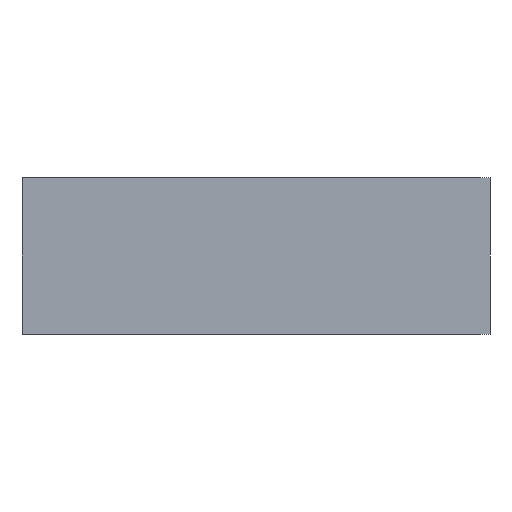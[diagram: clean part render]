
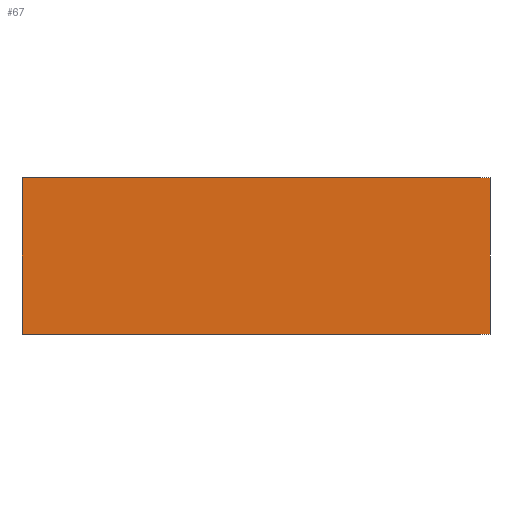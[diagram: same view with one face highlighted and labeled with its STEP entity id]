
A CAD part, front view. The second image highlights one B-rep face of the part: STEP entity #67.
In plain terms, the highlighted planar face has unit normal (0, -1, 0).
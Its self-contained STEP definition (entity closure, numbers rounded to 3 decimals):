
#42 = DIRECTION ( 'NONE',  ( 0., 0., -1. ) ) ;
#43 = CARTESIAN_POINT ( 'NONE',  ( -179., 0., 120. ) ) ;
#50 = DIRECTION ( 'NONE',  ( 1., 0., 0. ) ) ;
#51 = CARTESIAN_POINT ( 'NONE',  ( -179., 0., 0. ) ) ;
#52 = DIRECTION ( 'NONE',  ( 0., 0., -1. ) ) ;
#54 = CARTESIAN_POINT ( 'NONE',  ( 179., 0., 120. ) ) ;
#60 = VECTOR ( 'NONE', #79, 1000. ) ;
#67 = ADVANCED_FACE ( 'NONE', ( #308 ), #155, .F. ) ;
#79 = DIRECTION ( 'NONE',  ( 1., 0., 0. ) ) ;
#80 = CARTESIAN_POINT ( 'NONE',  ( -179., 0., 120. ) ) ;
#100 = CARTESIAN_POINT ( 'NONE',  ( -179., 0., 0. ) ) ;
#102 = VERTEX_POINT ( 'NONE', #110 ) ;
#103 = CARTESIAN_POINT ( 'NONE',  ( 179., 0., 0. ) ) ;
#107 = CARTESIAN_POINT ( 'NONE',  ( -179., 0., 120. ) ) ;
#110 = CARTESIAN_POINT ( 'NONE',  ( 179., 0., 120. ) ) ;
#116 = VERTEX_POINT ( 'NONE', #107 ) ;
#121 = VERTEX_POINT ( 'NONE', #103 ) ;
#123 = VERTEX_POINT ( 'NONE', #100 ) ;
#145 = DIRECTION ( 'NONE',  ( -1., 0., 0. ) ) ;
#146 = DIRECTION ( 'NONE',  ( 0., 1., 0. ) ) ;
#152 = CARTESIAN_POINT ( 'NONE',  ( -179., 0., 120. ) ) ;
#155 = PLANE ( 'NONE',  #244 ) ;
#170 = VECTOR ( 'NONE', #52, 1000. ) ;
#171 = LINE ( 'NONE', #51, #172 ) ;
#172 = VECTOR ( 'NONE', #50, 1000. ) ;
#175 = LINE ( 'NONE', #43, #176 ) ;
#176 = VECTOR ( 'NONE', #42, 1000. ) ;
#210 = ORIENTED_EDGE ( 'NONE', *, *, #269, .T. ) ;
#223 = ORIENTED_EDGE ( 'NONE', *, *, #254, .F. ) ;
#224 = ORIENTED_EDGE ( 'NONE', *, *, #272, .T. ) ;
#230 = ORIENTED_EDGE ( 'NONE', *, *, #267, .F. ) ;
#237 = LINE ( 'NONE', #54, #170 ) ;
#244 = AXIS2_PLACEMENT_3D ( 'NONE', #152, #146, #145 ) ;
#254 = EDGE_CURVE ( 'NONE', #116, #102, #319, .T. ) ;
#267 = EDGE_CURVE ( 'NONE', #102, #121, #237, .T. ) ;
#269 = EDGE_CURVE ( 'NONE', #123, #121, #171, .T. ) ;
#272 = EDGE_CURVE ( 'NONE', #116, #123, #175, .T. ) ;
#289 = EDGE_LOOP ( 'NONE', ( #210, #230, #223, #224 ) ) ;
#308 = FACE_OUTER_BOUND ( 'NONE', #289, .T. ) ;
#319 = LINE ( 'NONE', #80, #60 ) ;
